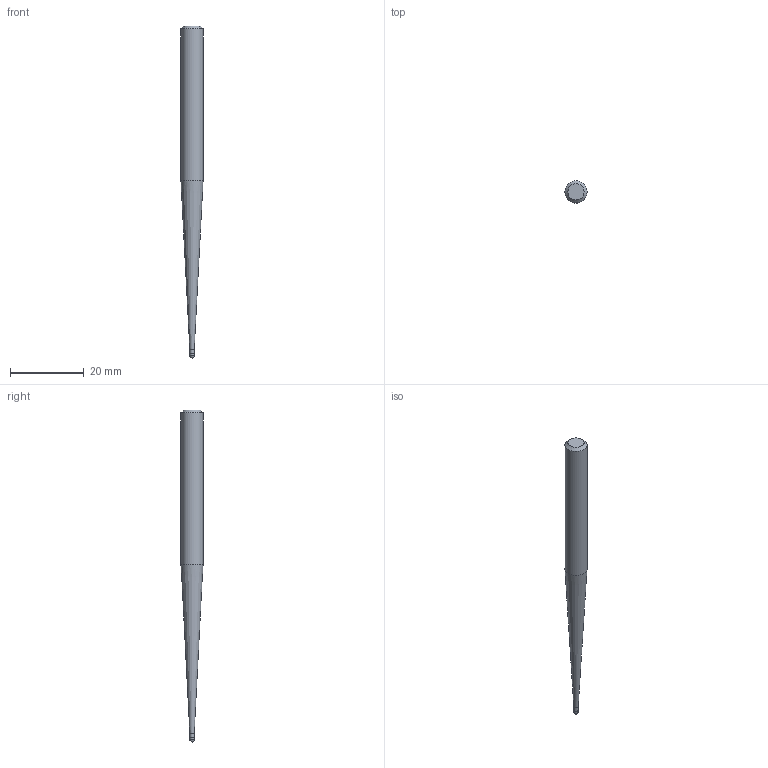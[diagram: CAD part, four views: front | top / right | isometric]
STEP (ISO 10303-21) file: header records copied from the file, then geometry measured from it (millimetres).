
FILE_DESCRIPTION((''),'2;1');
FILE_NAME('C:\Users\nsx150\AppData\Local\Temp\Mastercam 2021\SNAKH10GOD\TEMP.step','2021-10-21T13:32:46',(''),(''),'STEP Write','Mastercam 2021 ... CNC Software, Inc.','');
FILE_SCHEMA(('AUTOMOTIVE_DESIGN'));
Length unit declared in the file: millimetre
Products named in the file (1): None
Bounding box: 6 x 6 x 90 mm (x, y, z)
Volume: 1715.9 mm3; surface area: 1336.9 mm2
Topology: 2 solids, 2 shells, 9 faces, 14 edges, 8 vertices
Faces by surface type: plane 3, cylinder 3, cone 2, sphere 1
Full cylindrical faces by diameter (mm): 1.185 x1, 1.2 x1, 6 x1
Entity records: 211 total; most frequent: DIRECTION 36, CARTESIAN_POINT 25, AXIS2_PLACEMENT_3D 18, ORIENTED_EDGE 14, EDGE_LOOP 14, STYLED_ITEM 12, ADVANCED_FACE 9, FACE_BOUND 8
